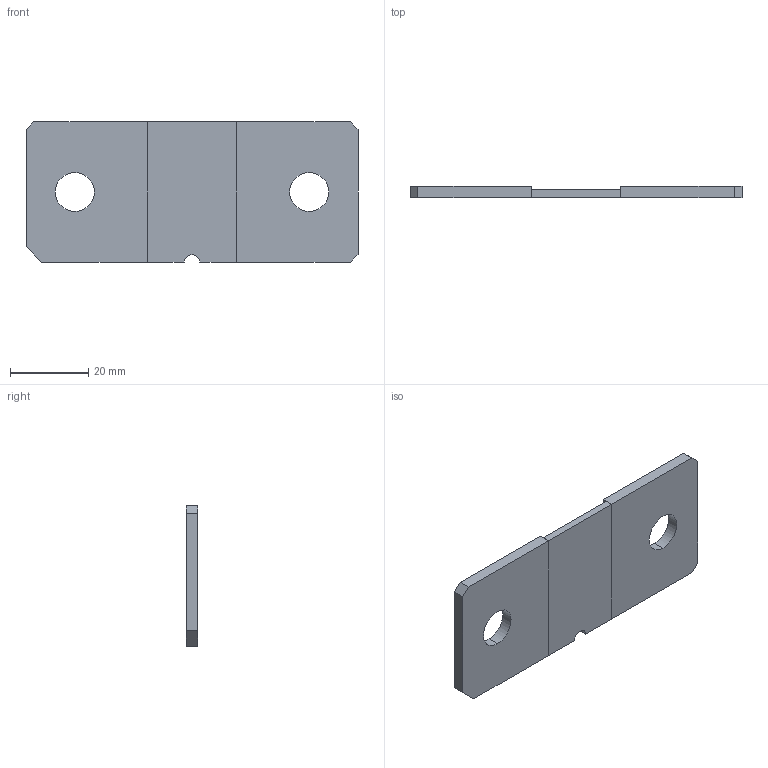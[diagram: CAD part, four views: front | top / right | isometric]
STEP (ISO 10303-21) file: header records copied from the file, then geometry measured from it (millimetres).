
FILE_DESCRIPTION (( 'STEP AP214' ), '1' );
FILE_NAME ('WSBS8536 125 microohm.STEP', '2021-03-09T15:38:39', ( '' ), ( '' ), 'SwSTEP 2.0', 'SolidWorks 2019', '' );
FILE_SCHEMA (( 'AUTOMOTIVE_DESIGN' ));
Length unit declared in the file: inch
Products named in the file (4): Right Terminal WSBS 8536 125 microohm; Element WSBS 8536 125 microohm; Left Terminal WSBS 8536 125 microohm; WSBS8536 125 microohm
Assembly tree (3 placements, depth 2):
  WSBS8536 125 microohm
    Element WSBS 8536 125 microohm
    Left Terminal WSBS 8536 125 microohm
    Right Terminal WSBS 8536 125 microohm
Bounding box: 84.99 x 3 x 35.99 mm (x, y, z)
Volume: 7806.5 mm3; surface area: 6975.3 mm2
Topology: 3 solids, 3 shells, 29 faces, 69 edges, 46 vertices
Faces by surface type: plane 23, cylinder 6
Entity records: 1017 total; most frequent: DIRECTION 151, CARTESIAN_POINT 150, ORIENTED_EDGE 138, EDGE_CURVE 69, LINE 57, VECTOR 57, AXIS2_PLACEMENT_3D 47, VERTEX_POINT 46
